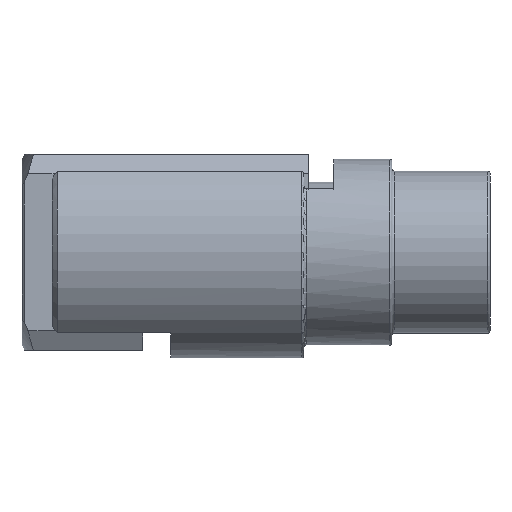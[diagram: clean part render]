
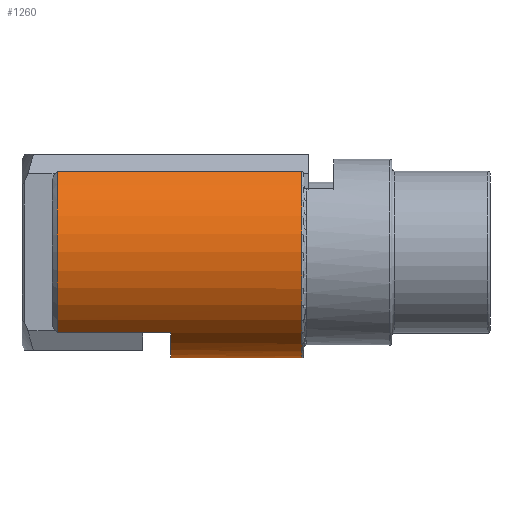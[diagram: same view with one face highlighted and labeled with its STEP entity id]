
A CAD part, left-side view. The second image highlights one B-rep face of the part: STEP entity #1260.
In plain terms, the highlighted cylindrical face has radius 11.1 mm (diameter 22.2 mm), a partial arc.
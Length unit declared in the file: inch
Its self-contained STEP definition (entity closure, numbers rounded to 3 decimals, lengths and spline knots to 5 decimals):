
#147=FACE_OUTER_BOUND('',#220,.T.);
#220=EDGE_LOOP('',(#1065,#1066,#1067,#1068,#1069,#1070,#1071,#1072));
#314=LINE('',#2313,#387);
#315=LINE('',#2317,#388);
#316=LINE('',#2321,#389);
#317=LINE('',#2324,#390);
#387=VECTOR('',#1712,0.3937);
#388=VECTOR('',#1715,0.3937);
#389=VECTOR('',#1718,0.3937);
#390=VECTOR('',#1721,0.3937);
#462=CIRCLE('',#1406,0.437);
#463=CIRCLE('',#1408,0.437);
#464=CIRCLE('',#1409,0.437);
#465=CIRCLE('',#1410,0.437);
#588=VERTEX_POINT('',#2288);
#589=VERTEX_POINT('',#2299);
#590=VERTEX_POINT('',#2312);
#591=VERTEX_POINT('',#2314);
#592=VERTEX_POINT('',#2316);
#593=VERTEX_POINT('',#2318);
#594=VERTEX_POINT('',#2320);
#595=VERTEX_POINT('',#2322);
#758=EDGE_CURVE('',#588,#589,#462,.T.);
#760=EDGE_CURVE('',#588,#590,#314,.T.);
#761=EDGE_CURVE('',#591,#590,#463,.T.);
#762=EDGE_CURVE('',#591,#592,#315,.T.);
#763=EDGE_CURVE('',#592,#593,#464,.T.);
#764=EDGE_CURVE('',#593,#594,#316,.T.);
#765=EDGE_CURVE('',#595,#594,#465,.T.);
#766=EDGE_CURVE('',#595,#589,#317,.T.);
#1065=ORIENTED_EDGE('',*,*,#760,.T.);
#1066=ORIENTED_EDGE('',*,*,#761,.F.);
#1067=ORIENTED_EDGE('',*,*,#762,.T.);
#1068=ORIENTED_EDGE('',*,*,#763,.T.);
#1069=ORIENTED_EDGE('',*,*,#764,.T.);
#1070=ORIENTED_EDGE('',*,*,#765,.F.);
#1071=ORIENTED_EDGE('',*,*,#766,.T.);
#1072=ORIENTED_EDGE('',*,*,#758,.F.);
#1212=CYLINDRICAL_SURFACE('',#1407,0.437);
#1260=ADVANCED_FACE('',(#147),#1212,.T.);
#1406=AXIS2_PLACEMENT_3D('',#2300,#1708,#1709);
#1407=AXIS2_PLACEMENT_3D('',#2311,#1710,#1711);
#1408=AXIS2_PLACEMENT_3D('',#2315,#1713,#1714);
#1409=AXIS2_PLACEMENT_3D('',#2319,#1716,#1717);
#1410=AXIS2_PLACEMENT_3D('',#2323,#1719,#1720);
#1708=DIRECTION('center_axis',(0.,-1.,0.));
#1709=DIRECTION('ref_axis',(0.,0.,1.));
#1710=DIRECTION('center_axis',(0.,-1.,0.));
#1711=DIRECTION('ref_axis',(0.,0.,-1.));
#1712=DIRECTION('',(0.,1.,0.));
#1713=DIRECTION('center_axis',(0.,1.,0.));
#1714=DIRECTION('ref_axis',(0.,0.,1.));
#1715=DIRECTION('',(0.,-1.,0.));
#1716=DIRECTION('center_axis',(0.,-1.,0.));
#1717=DIRECTION('ref_axis',(0.,0.,-1.));
#1718=DIRECTION('',(0.,1.,0.));
#1719=DIRECTION('center_axis',(0.,1.,0.));
#1720=DIRECTION('ref_axis',(0.,0.,1.));
#1721=DIRECTION('',(0.,-1.,0.));
#2288=CARTESIAN_POINT('',(-0.282,0.78,0.33383));
#2299=CARTESIAN_POINT('',(0.282,0.78,0.33383));
#2300=CARTESIAN_POINT('Origin',(0.,0.78,0.));
#2311=CARTESIAN_POINT('Origin',(0.,1.291,0.));
#2312=CARTESIAN_POINT('',(-0.282,1.792,0.33383));
#2313=CARTESIAN_POINT('',(-0.282,1.291,0.33383));
#2314=CARTESIAN_POINT('',(-0.282,1.792,-0.33383));
#2315=CARTESIAN_POINT('Origin',(0.,1.792,0.));
#2316=CARTESIAN_POINT('',(-0.282,1.322,-0.33383));
#2317=CARTESIAN_POINT('',(-0.282,1.291,-0.33383));
#2318=CARTESIAN_POINT('',(0.282,1.322,-0.33383));
#2319=CARTESIAN_POINT('Origin',(0.,1.322,0.));
#2320=CARTESIAN_POINT('',(0.282,1.792,-0.33383));
#2321=CARTESIAN_POINT('',(0.282,1.291,-0.33383));
#2322=CARTESIAN_POINT('',(0.282,1.792,0.33383));
#2323=CARTESIAN_POINT('Origin',(0.,1.792,0.));
#2324=CARTESIAN_POINT('',(0.282,1.291,0.33383));
